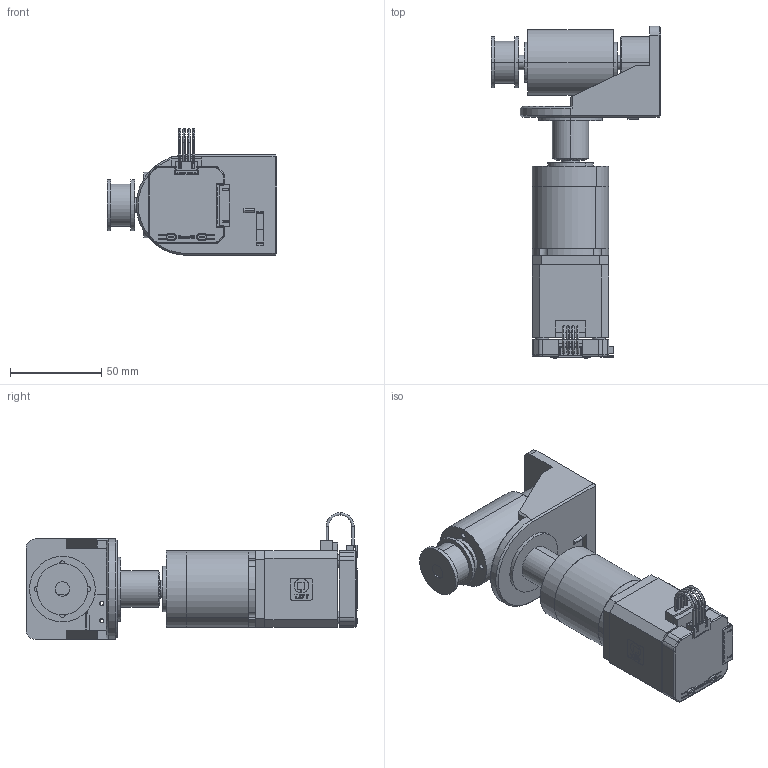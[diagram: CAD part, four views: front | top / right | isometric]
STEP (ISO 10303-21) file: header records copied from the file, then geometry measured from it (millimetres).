
FILE_DESCRIPTION(('Open CASCADE Model'),'2;1');
FILE_NAME('Open CASCADE Shape Model','2026-09-19T11:07:52',('Author'),( 'Open CASCADE'),'Open CASCADE STEP processor 7.9','Open CASCADE 7.9' ,'Unknown');
FILE_SCHEMA(('AUTOMOTIVE_DESIGN { 1 0 10303 214 1 1 1 1 }'));
Length unit declared in the file: millimetre
Products named in the file (38): Open CASCADE STEP translator 7.9 52; Open CASCADE STEP translator 7.9 52.1; Open CASCADE STEP translator 7.9 52.1.1; Open CASCADE STEP translator 7.9 52.1.1.1; Open CASCADE STEP translator 7.9 52.1.1.1.1; Open CASCADE STEP translator 7.9 52.1.1.1.2; Open CASCADE STEP translator 7.9 52.1.1.1.3; Open CASCADE STEP translator 7.9 52.1.1.1.3.1; Open CASCADE STEP translator 7.9 52.1.1.1.3.1.1; Open CASCADE STEP translator 7.9 52.1.1.1.3.1.2; Open CASCADE STEP translator 7.9 52.1.1.1.3.1.3; Open CASCADE STEP translator 7.9 52.1.1.1.4; Open CASCADE STEP translator 7.9 52.1.1.1.5; Open CASCADE STEP translator 7.9 52.1.1.1.5.1; Open CASCADE STEP translator 7.9 52.1.1.1.5.2; Open CASCADE STEP translator 7.9 52.1.1.1.6; Open CASCADE STEP translator 7.9 52.1.1.2; Open CASCADE STEP translator 7.9 52.1.1.2.1; Open CASCADE STEP translator 7.9 52.1.1.2.2; Open CASCADE STEP translator 7.9 52.1.1.3; Open CASCADE STEP translator 7.9 52.1.1.7; Open CASCADE STEP translator 7.9 52.1.1.11; Open CASCADE STEP translator 7.9 52.1.1.12; Open CASCADE STEP translator 7.9 52.1.1.12.1; Open CASCADE STEP translator 7.9 52.1.1.12.2; Open CASCADE STEP translator 7.9 52.1.1.12.3; Open CASCADE STEP translator 7.9 52.1.1.12.4; Open CASCADE STEP translator 7.9 52.2; Open CASCADE STEP translator 7.9 52.2.1; Open CASCADE STEP translator 7.9 52.2.1.1; Open CASCADE STEP translator 7.9 52.2.1.2; Open CASCADE STEP translator 7.9 52.2.1.3; Open CASCADE STEP translator 7.9 52.3; Open CASCADE STEP translator 7.9 52.4; Open CASCADE STEP translator 7.9 52.5; Open CASCADE STEP translator 7.9 52.6; Open CASCADE STEP translator 7.9 52.7; Open CASCADE STEP translator 7.9 52.8
Assembly tree (44 placements, depth 7):
  Open CASCADE STEP translator 7.9 52
    Open CASCADE STEP translator 7.9 52.1
      Open CASCADE STEP translator 7.9 52.1.1
        Open CASCADE STEP translator 7.9 52.1.1.1
          Open CASCADE STEP translator 7.9 52.1.1.1.1
          Open CASCADE STEP translator 7.9 52.1.1.1.2
          Open CASCADE STEP translator 7.9 52.1.1.1.3
            Open CASCADE STEP translator 7.9 52.1.1.1.3.1
              Open CASCADE STEP translator 7.9 52.1.1.1.3.1.1
              Open CASCADE STEP translator 7.9 52.1.1.1.3.1.2
              Open CASCADE STEP translator 7.9 52.1.1.1.3.1.3
          Open CASCADE STEP translator 7.9 52.1.1.1.4
          Open CASCADE STEP translator 7.9 52.1.1.1.5
            Open CASCADE STEP translator 7.9 52.1.1.1.5.1
            Open CASCADE STEP translator 7.9 52.1.1.1.5.2
          Open CASCADE STEP translator 7.9 52.1.1.1.6
        Open CASCADE STEP translator 7.9 52.1.1.2
          Open CASCADE STEP translator 7.9 52.1.1.2.1
          Open CASCADE STEP translator 7.9 52.1.1.2.2
        Open CASCADE STEP translator 7.9 52.1.1.3  x4
        Open CASCADE STEP translator 7.9 52.1.1.7  x4
        Open CASCADE STEP translator 7.9 52.1.1.11
        Open CASCADE STEP translator 7.9 52.1.1.12
          Open CASCADE STEP translator 7.9 52.1.1.12.1
          Open CASCADE STEP translator 7.9 52.1.1.12.2
          Open CASCADE STEP translator 7.9 52.1.1.12.3
          Open CASCADE STEP translator 7.9 52.1.1.12.4
    Open CASCADE STEP translator 7.9 52.2
      Open CASCADE STEP translator 7.9 52.2.1
        Open CASCADE STEP translator 7.9 52.2.1.1
        Open CASCADE STEP translator 7.9 52.2.1.2
        Open CASCADE STEP translator 7.9 52.2.1.3
    Open CASCADE STEP translator 7.9 52.3
    Open CASCADE STEP translator 7.9 52.4
    Open CASCADE STEP translator 7.9 52.5
    Open CASCADE STEP translator 7.9 52.6
    Open CASCADE STEP translator 7.9 52.7
    Open CASCADE STEP translator 7.9 52.8  x2
Bounding box: 93 x 181.9 x 69.4 mm (x, y, z)
Volume: 269066.1 mm3; surface area: 79641.3 mm2
Topology: 34 solids, 34 shells, 2795 faces, 7503 edges, 4920 vertices
Faces by surface type: plane 1877, cylinder 763, bspline 76, cone 49, torus 30
Entity records: 197916 total; most frequent: CARTESIAN_POINT 58508, DIRECTION 25445, LINE 17824, VECTOR 17824, ORIENTED_EDGE 13938, PCURVE 13938, DEFINITIONAL_REPRESENTATION 13938, EDGE_CURVE 6969
